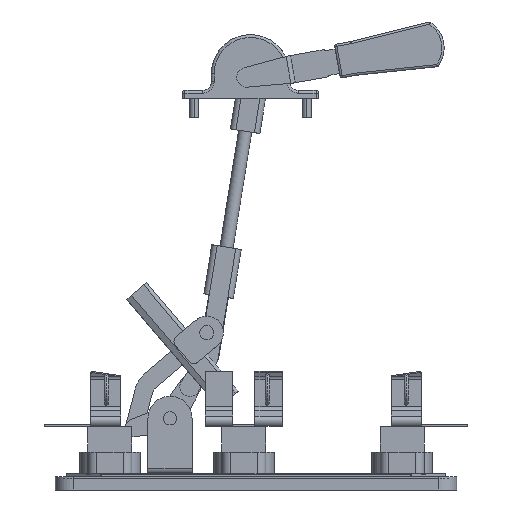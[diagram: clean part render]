
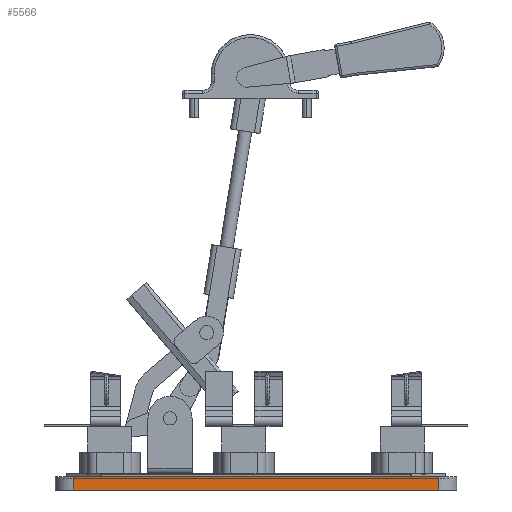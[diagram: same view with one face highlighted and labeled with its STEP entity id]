
A CAD part, left-side view. The second image highlights one B-rep face of the part: STEP entity #5566.
In plain terms, the highlighted planar face has unit normal (-1, 0, 0).
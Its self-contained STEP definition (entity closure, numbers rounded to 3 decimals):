
#4068 = CARTESIAN_POINT ( 'NONE',  ( -132., -243.8, -15. ) ) ;
#4244 = VECTOR ( 'NONE', #44170, 1000. ) ;
#5566 = ADVANCED_FACE ( 'NONE', ( #24679 ), #22356, .T. ) ;
#9431 = VECTOR ( 'NONE', #10845, 1000. ) ;
#9754 = CARTESIAN_POINT ( 'NONE',  ( -132., 87.8, -15. ) ) ;
#10845 = DIRECTION ( 'NONE',  ( 0., -1., 0. ) ) ;
#12134 = VECTOR ( 'NONE', #28266, 1000. ) ;
#13168 = DIRECTION ( 'NONE',  ( 0., -1., 0. ) ) ;
#14034 = EDGE_CURVE ( 'NONE', #28746, #14212, #54446, .T. ) ;
#14212 = VERTEX_POINT ( 'NONE', #23784 ) ;
#15154 = ORIENTED_EDGE ( 'NONE', *, *, #14034, .F. ) ;
#17952 = DIRECTION ( 'NONE',  ( -1., 0., 0. ) ) ;
#19988 = ORIENTED_EDGE ( 'NONE', *, *, #53356, .T. ) ;
#20286 = CARTESIAN_POINT ( 'NONE',  ( -132., -243.8, -15. ) ) ;
#22356 = PLANE ( 'NONE',  #46584 ) ;
#23371 = LINE ( 'NONE', #20286, #12134 ) ;
#23784 = CARTESIAN_POINT ( 'NONE',  ( -132., -243.8, -3. ) ) ;
#24679 = FACE_OUTER_BOUND ( 'NONE', #50515, .T. ) ;
#26120 = CARTESIAN_POINT ( 'NONE',  ( -132., 104., -15. ) ) ;
#26165 = VERTEX_POINT ( 'NONE', #27446 ) ;
#27446 = CARTESIAN_POINT ( 'NONE',  ( -132., 87.8, -15. ) ) ;
#28266 = DIRECTION ( 'NONE',  ( 0., 0., 1. ) ) ;
#28746 = VERTEX_POINT ( 'NONE', #49160 ) ;
#28758 = EDGE_CURVE ( 'NONE', #31899, #14212, #23371, .T. ) ;
#31899 = VERTEX_POINT ( 'NONE', #4068 ) ;
#34924 = DIRECTION ( 'NONE',  ( 0., -1., 0. ) ) ;
#35350 = LINE ( 'NONE', #26120, #37971 ) ;
#37971 = VECTOR ( 'NONE', #13168, 1000. ) ;
#40493 = ORIENTED_EDGE ( 'NONE', *, *, #50390, .T. ) ;
#40648 = LINE ( 'NONE', #9754, #4244 ) ;
#43667 = CARTESIAN_POINT ( 'NONE',  ( -132., 104., -15. ) ) ;
#44170 = DIRECTION ( 'NONE',  ( 0., 0., -1. ) ) ;
#46584 = AXIS2_PLACEMENT_3D ( 'NONE', #43667, #17952, #34924 ) ;
#48949 = CARTESIAN_POINT ( 'NONE',  ( -132., 104., -3. ) ) ;
#49160 = CARTESIAN_POINT ( 'NONE',  ( -132., 87.8, -3. ) ) ;
#50390 = EDGE_CURVE ( 'NONE', #28746, #26165, #40648, .T. ) ;
#50515 = EDGE_LOOP ( 'NONE', ( #15154, #40493, #19988, #51470 ) ) ;
#51470 = ORIENTED_EDGE ( 'NONE', *, *, #28758, .T. ) ;
#53356 = EDGE_CURVE ( 'NONE', #26165, #31899, #35350, .T. ) ;
#54446 = LINE ( 'NONE', #48949, #9431 ) ;
